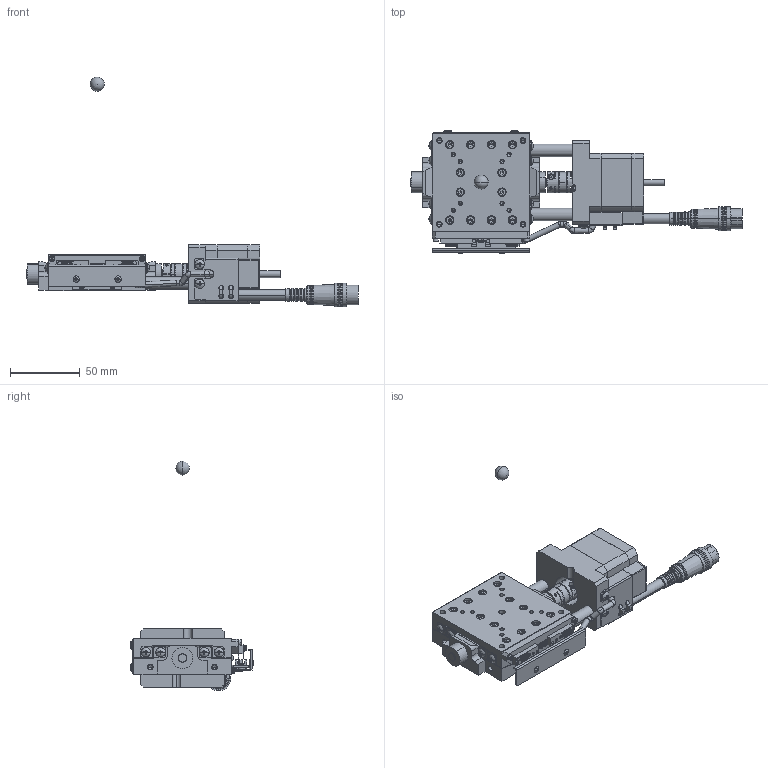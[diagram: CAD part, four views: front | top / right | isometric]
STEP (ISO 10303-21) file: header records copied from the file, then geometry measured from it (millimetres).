
FILE_DESCRIPTION (( 'STEP AP203' ), '1' );
FILE_NAME ('SA07A-RB02-R.STEP', '2019-02-25T07:20:12', ( '' ), ( '' ), 'SwSTEP 2.0', 'SolidWorks 2018', '' );
FILE_SCHEMA (( 'CONFIG_CONTROL_DESIGN' ));
Length unit declared in the file: millimetre
Products named in the file (7): base; rotation center; base-Part-1; SA07A-RB02-R; table; base-Part-3; base-Part-2
Assembly tree (6 placements, depth 3):
  SA07A-RB02-R
    base
      base-Part-1
      base-Part-2
      base-Part-3
    rotation center
    table
Bounding box: 238 x 88.66 x 164.65 mm (x, y, z)
Volume: 251299.8 mm3; surface area: 73675.6 mm2
Topology: 5 solids, 5 shells, 2630 faces, 6680 edges, 4152 vertices
Faces by surface type: plane 1531, cylinder 683, cone 288, torus 74, sphere 48, bspline 6
Entity records: 80485 total; most frequent: CARTESIAN_POINT 15077, DIRECTION 14089, ORIENTED_EDGE 13146, EDGE_CURVE 6573, AXIS2_PLACEMENT_3D 5006, VERTEX_POINT 4143, LINE 4077, VECTOR 4077
